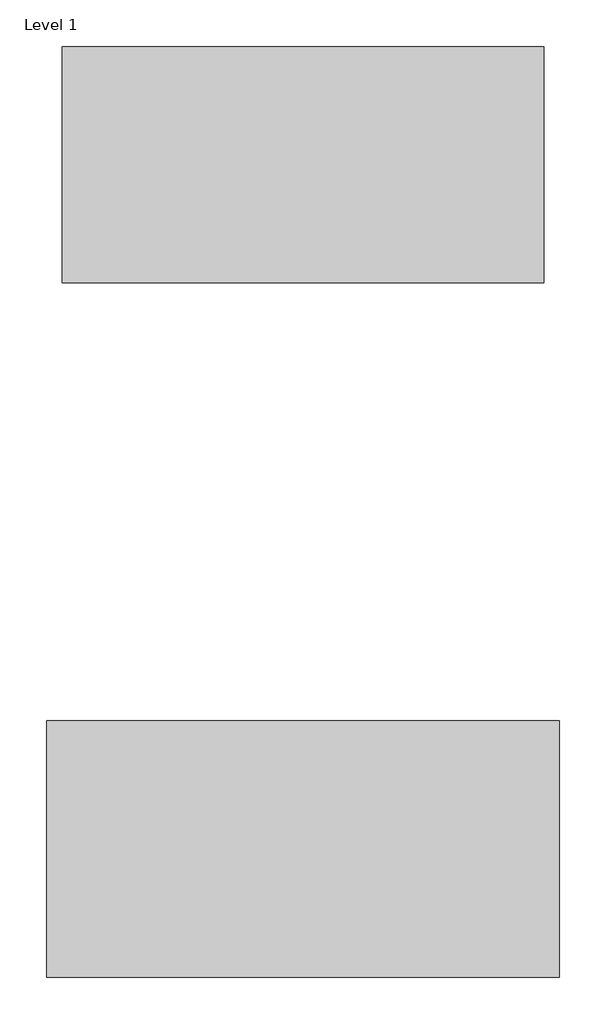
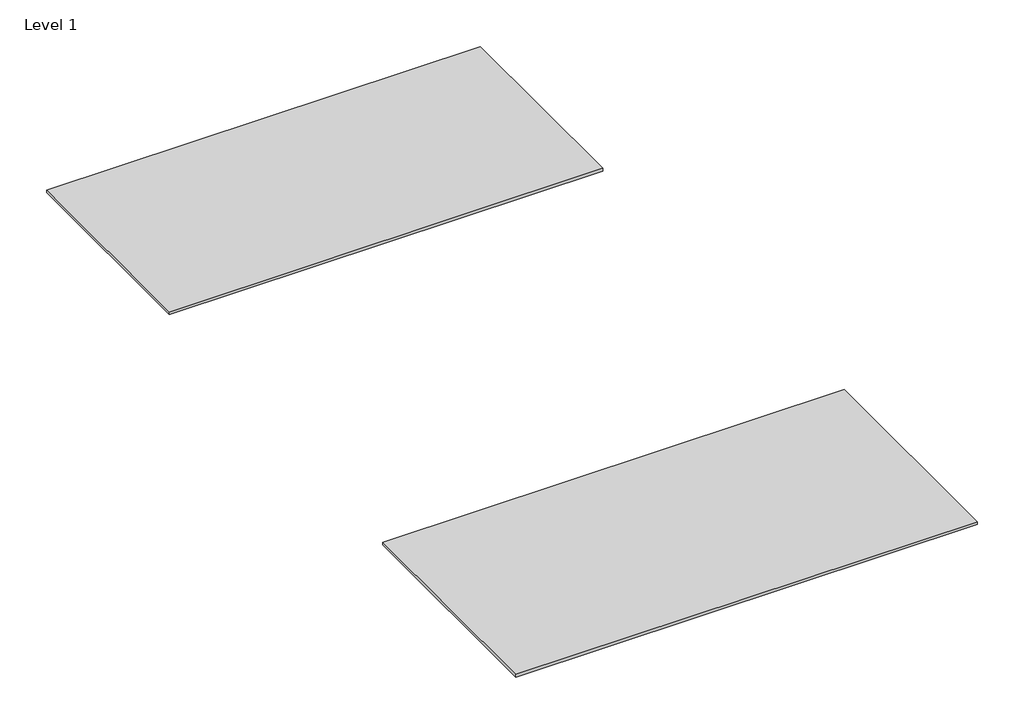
# One storey: 2 furniture elements.
"""IFC4 building model written with IfcOpenShell, lengths in millimetres."""

import ifcopenshell
import ifcopenshell.guid

model = None  # the IFC model being written
_history = None  # IfcOwnerHistory: only IFC2X3 demands one
_inside = {}  # id of a spatial element -> (the spatial element, [elements in it])
_under = {}  # id of a project, library or spatial element -> (it, [spatial elements below it])
_declared = {}  # id of a project -> (the project, [libraries it declares])
_typed = {}  # id of a type object -> (the type object, [elements of that type])
_made_of = {}  # id of a material, layer set ... -> (it, [elements and type objects made of it])


def new_model(schema):
    """Start an empty IFC model of exactly this schema.

    Asked for "IFC4X3", IfcOpenShell would pick the latest addendum, in which some entities
    have other attributes; the version numbers below select the first issue.
    IFC2X3 requires an IfcOwnerHistory on every rooted entity: one is made here for all.
    """
    global model, _history
    if schema == "IFC4X3":
        model = ifcopenshell.file(schema_version=(4, 3, 0, 0))
    else:
        model = ifcopenshell.file(schema=schema)
    _inside.clear()
    _under.clear()
    _declared.clear()
    _typed.clear()
    _made_of.clear()
    _history = None
    if model.schema == "IFC2X3":
        org = make("IfcOrganization", Name="unknown")
        user = make(
            "IfcPersonAndOrganization",
            ThePerson=make("IfcPerson", FamilyName="unknown"),
            TheOrganization=org,
        )
        app = make(
            "IfcApplication",
            ApplicationDeveloper=org,
            Version="unknown",
            ApplicationFullName="unknown",
            ApplicationIdentifier="unknown",
        )
        _history = make(
            "IfcOwnerHistory",
            OwningUser=user,
            OwningApplication=app,
            ChangeAction="ADDED",
            CreationDate=0,
        )
    return model


def make(cls, **values):
    """One entity of the class cls with the attributes given. An attribute that is None is left unset."""
    return model.create_entity(
        cls, **{name: value for name, value in values.items() if value is not None}
    )


def rooted(cls, **values):
    """An entity with a GlobalId (a new one), such as an element, a storey or a relation."""
    return make(cls, GlobalId=ifcopenshell.guid.new(), OwnerHistory=_history, **values)


def si_unit(unit_type, name, prefix=None):
    """IfcSIUnit, for example si_unit("LENGTHUNIT", "METRE", prefix="MILLI")."""
    return make("IfcSIUnit", UnitType=unit_type, Prefix=prefix, Name=name)


def assignment(units):
    """IfcUnitAssignment: the units of a project."""
    return None if units is None else make("IfcUnitAssignment", Units=units)


def point(xyz):
    """IfcCartesianPoint."""
    return None if xyz is None else make("IfcCartesianPoint", Coordinates=xyz)


def direction(xyz):
    """IfcDirection."""
    return None if xyz is None else make("IfcDirection", DirectionRatios=xyz)


def frame(location, z_axis=None, x_axis=None):
    """IfcAxis2Placement3D, a coordinate frame: its origin and axes. An axis left out is left unset."""
    return make(
        "IfcAxis2Placement3D",
        Location=point(location),
        Axis=direction(z_axis),
        RefDirection=direction(x_axis),
    )


def origin():
    """The frame at (0, 0, 0) with its axes left unset."""
    return frame((0.0, 0.0, 0.0))


def origin_with_axes():
    """The frame at (0, 0, 0) with the z axis (0, 0, 1) and the x axis (1, 0, 0) written out."""
    return frame((0.0, 0.0, 0.0), z_axis=(0.0, 0.0, 1.0), x_axis=(1.0, 0.0, 0.0))


def place(relative_to, where):
    """IfcLocalPlacement: puts the frame where relative to a parent placement (None: the world)."""
    return make(
        "IfcLocalPlacement", PlacementRelTo=relative_to, RelativePlacement=where
    )


def context(
    kind, dimensions, precision=None, world=None, true_north=None, identifier=None
):
    """IfcGeometricRepresentationContext, for example the 3D "Model" context."""
    return make(
        "IfcGeometricRepresentationContext",
        ContextIdentifier=identifier,
        ContextType=kind,
        CoordinateSpaceDimension=dimensions,
        Precision=precision,
        WorldCoordinateSystem=world,
        TrueNorth=true_north,
    )


def project(units=None, contexts=None):
    """IfcProject with its units and contexts."""
    return rooted(
        "IfcProject",
        Name="project",
        RepresentationContexts=contexts,
        UnitsInContext=assignment(units),
    )


def spatial(cls, under=None, at=None, **own):
    """A site, building, storey or space (cls), placed at a placement, below another one or the project."""
    s = rooted(cls, ObjectPlacement=at, **own)
    if under is not None:
        _under.setdefault(under.id(), (under, []))[1].append(s)
    return s


def polyline(points):
    """IfcPolyline through the points."""
    return make("IfcPolyline", Points=[point(p) for p in points])


def outline(outer, holes=None, kind="AREA"):
    """IfcArbitraryClosedProfileDef: a profile drawn as a closed curve; with holes, ...WithVoids."""
    if holes is None:
        return make("IfcArbitraryClosedProfileDef", ProfileType=kind, OuterCurve=outer)
    return make(
        "IfcArbitraryProfileDefWithVoids",
        ProfileType=kind,
        OuterCurve=outer,
        InnerCurves=holes,
    )


def extrude(swept, where, along, depth):
    """IfcExtrudedAreaSolid: the profile swept, set in the frame where, extruded along a direction by depth."""
    return make(
        "IfcExtrudedAreaSolid",
        SweptArea=swept,
        Position=where,
        ExtrudedDirection=direction(along),
        Depth=depth,
    )


def shape(context_of_items, identifier, shape_type, items):
    """IfcShapeRepresentation: the items that make up one representation, for example the "Body"."""
    return make(
        "IfcShapeRepresentation",
        ContextOfItems=context_of_items,
        RepresentationIdentifier=identifier,
        RepresentationType=shape_type,
        Items=items,
    )


def source(mapping_origin, context_of_items, identifier, shape_type, items):
    """IfcRepresentationMap: a shape defined once, which mapped items show again and again."""
    return make(
        "IfcRepresentationMap",
        MappingOrigin=mapping_origin,
        MappedRepresentation=shape(context_of_items, identifier, shape_type, items),
    )


def transform(
    local_origin,
    x_axis=None,
    y_axis=None,
    z_axis=None,
    scale=None,
    scale2=None,
    scale3=None,
    uniform=True,
):
    """IfcCartesianTransformationOperator3D, or its non-uniform kind. x_axis, y_axis, z_axis: its Axis1, 2, 3."""
    if uniform:
        return make(
            "IfcCartesianTransformationOperator3D",
            Axis1=direction(x_axis),
            Axis2=direction(y_axis),
            LocalOrigin=point(local_origin),
            Scale=scale,
            Axis3=direction(z_axis),
        )
    return make(
        "IfcCartesianTransformationOperator3DnonUniform",
        Axis1=direction(x_axis),
        Axis2=direction(y_axis),
        LocalOrigin=point(local_origin),
        Scale=scale,
        Axis3=direction(z_axis),
        Scale2=scale2,
        Scale3=scale3,
    )


def mapped(mapping_source, mapping_target):
    """IfcMappedItem: shows the shape of a source again, moved by a transform."""
    return make(
        "IfcMappedItem", MappingSource=mapping_source, MappingTarget=mapping_target
    )


def made_of(thing, what):
    """Note that an element or type object is made of a material, layer set ...; save() writes the relation."""
    if what is not None:
        _made_of.setdefault(what.id(), (what, []))[1].append(thing)
    return thing


def element(
    cls,
    number,
    at=None,
    inside=None,
    cuts=None,
    type_object=None,
    material=None,
    context=None,
    identifier="Body",
    shape_type=None,
    held_by="IfcProductDefinitionShape",
    body=None,
    shapes=None,
    **own,
):
    """One element of the class cls, such as IfcWall. Its Tag is "e" and its number.

    at: its placement. inside: the storey or other place that contains it. cuts: it is an
    opening in that element (IfcRelVoidsElement). A single representation is given by context,
    identifier, shape_type and body (its items); several are given by shapes. held_by: the class
    of the entity that holds the representations. save() writes the other relations.
    """
    e = rooted(cls, Tag="e%d" % number, ObjectPlacement=at, **own)
    if body is not None:
        shapes = [shape(context, identifier, shape_type, body)]
    if shapes is not None:
        e.Representation = make(held_by, Representations=shapes)
    if inside is not None:
        _inside.setdefault(inside.id(), (inside, []))[1].append(e)
    if cuts is not None:
        rooted(
            "IfcRelVoidsElement", RelatingBuildingElement=cuts, RelatedOpeningElement=e
        )
    if type_object is not None:
        _typed.setdefault(type_object.id(), (type_object, []))[1].append(e)
    return made_of(e, material)


def aggregate(whole, parts):
    """IfcRelAggregates: a whole, such as a stair, and the parts it consists of."""
    return rooted("IfcRelAggregates", RelatingObject=whole, RelatedObjects=parts)


def save(model, path):
    """Write the relations noted so far, then the file.

    IfcRelAggregates (storeys below a building ...), IfcRelContainedInSpatialStructure (elements
    in a storey), IfcRelDefinesByType, IfcRelAssociatesMaterial and IfcRelDeclares: one each for
    every whole, place, type object, material and project.
    """
    for whole, parts in _under.values():
        aggregate(whole, parts)
    for where, things in _inside.values():
        rooted(
            "IfcRelContainedInSpatialStructure",
            RelatedElements=things,
            RelatingStructure=where,
        )
    for kind, things in _typed.values():
        rooted("IfcRelDefinesByType", RelatedObjects=things, RelatingType=kind)
    for what, things in _made_of.values():
        rooted("IfcRelAssociatesMaterial", RelatedObjects=things, RelatingMaterial=what)
    for by, libraries in _declared.values():
        rooted("IfcRelDeclares", RelatingContext=by, RelatedDefinitions=libraries)
    model.write(path)


def furniture_ea33b4cf(model_context):
    return source(origin(), model_context, "Body", "SweptSolid", [
        extrude(outline(polyline([(1650.0, 825.0), (1650.0, -825.0), (-1650.0, -825.0), (-1650.0, 825.0), (1650.0, 825.0)])), origin_with_axes(), (0.0, 0.0, 1.0), 20.0),
    ])


def furniture_22a8cda6(model_context):
    return source(origin(), model_context, "Body", "SweptSolid", [
        extrude(outline(polyline([(1550.0, 760.0), (1550.0, -760.0), (-1550.0, -760.0), (-1550.0, 760.0), (1550.0, 760.0)])), origin_with_axes(), (0.0, 0.0, 1.0), 20.0),
    ])


model = new_model("IFC4")

# Units and contexts
model_context = context("Model", 3, world=origin())
ifc_project = project(units=[si_unit("LENGTHUNIT", "METRE", prefix="MILLI")], contexts=[model_context])

# Site, building, storey
site = spatial("IfcSite", under=ifc_project)
building = spatial("IfcBuilding", under=site)
storey = spatial("IfcBuildingStorey", under=building, Name="Level 1", Elevation=0.0)

# Furniture
placement = place(None, origin())
furniture_shape = furniture_ea33b4cf(model_context)
element("IfcFurniture", 1, ObjectType="BELENCO_Babilon_4558_165cmx330cm : BELENCO_Babilon_4558_165cm*330cm", at=placement, inside=storey, context=model_context, shape_type="MappedRepresentation", body=[
    mapped(furniture_shape, transform((-1701.0450676, 1163.7754875, 0.0), x_axis=(1.0, 0.0, 0.0), y_axis=(0.0, 1.0, 0.0), z_axis=(0.0, 0.0, 1.0))),
])
furniture_2_shape = furniture_22a8cda6(model_context)
element("IfcFurniture", 2, ObjectType="BELENCO_Babilon_4558_152cmx310cm : BELENCO_Babilon_4558_152cm*310cm", at=placement, inside=storey, context=model_context, shape_type="MappedRepresentation", body=[
    mapped(furniture_2_shape, transform((-1701.0450676, 5563.7754875, 0.0), x_axis=(1.0, 0.0, 0.0), y_axis=(0.0, 1.0, 0.0), z_axis=(0.0, 0.0, 1.0))),
])

save(model, "model.ifc")
